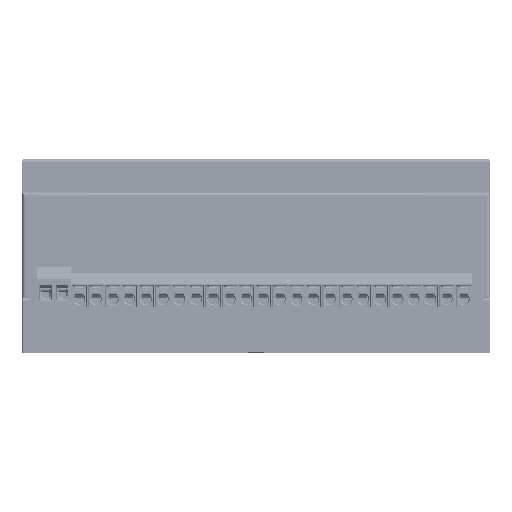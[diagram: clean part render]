
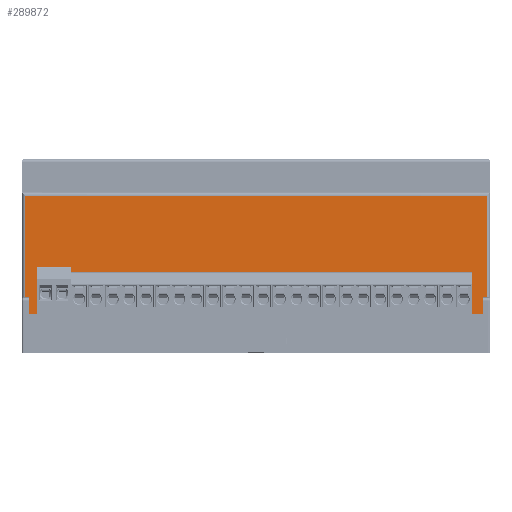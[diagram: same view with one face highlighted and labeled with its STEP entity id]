
A CAD part, top view. The second image highlights one B-rep face of the part: STEP entity #289872.
In plain terms, the highlighted planar face has unit normal (0, 0, 1).
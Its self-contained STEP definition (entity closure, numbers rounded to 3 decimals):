
#1857 = EDGE_CURVE ( 'NONE', #332989, #46589, #12722, .T. ) ;
#12722 = LINE ( 'NONE', #183759, #343056 ) ;
#18560 = VECTOR ( 'NONE', #66534, 1000. ) ;
#20705 = LINE ( 'NONE', #262756, #200771 ) ;
#21492 = ORIENTED_EDGE ( 'NONE', *, *, #79957, .F. ) ;
#22964 = VERTEX_POINT ( 'NONE', #174388 ) ;
#24503 = DIRECTION ( 'NONE',  ( -1., 0., 0. ) ) ;
#28407 = EDGE_CURVE ( 'NONE', #291309, #54875, #406908, .T. ) ;
#31301 = CARTESIAN_POINT ( 'NONE',  ( 1., 31.5, 0. ) ) ;
#33002 = LINE ( 'NONE', #31301, #192941 ) ;
#33703 = EDGE_CURVE ( 'NONE', #133363, #345905, #133824, .T. ) ;
#36576 = EDGE_CURVE ( 'NONE', #84557, #398279, #20705, .T. ) ;
#36707 = LINE ( 'NONE', #320237, #281832 ) ;
#45494 = EDGE_CURVE ( 'NONE', #307761, #291309, #36707, .T. ) ;
#46589 = VERTEX_POINT ( 'NONE', #217232 ) ;
#48777 = VECTOR ( 'NONE', #228074, 1000. ) ;
#53163 = VECTOR ( 'NONE', #24503, 1000. ) ;
#53462 = EDGE_CURVE ( 'NONE', #332989, #345905, #252406, .T. ) ;
#54875 = VERTEX_POINT ( 'NONE', #61861 ) ;
#55540 = ORIENTED_EDGE ( 'NONE', *, *, #45494, .T. ) ;
#55916 = CARTESIAN_POINT ( 'NONE',  ( 137., -5., 0. ) ) ;
#56778 = VECTOR ( 'NONE', #347625, 1000. ) ;
#61861 = CARTESIAN_POINT ( 'NONE',  ( 139., 30.5, 0. ) ) ;
#64978 = DIRECTION ( 'NONE',  ( 0., 1., 0. ) ) ;
#66534 = DIRECTION ( 'NONE',  ( -1., 0., 0. ) ) ;
#77768 = CARTESIAN_POINT ( 'NONE',  ( 138.5, -6.5, 0. ) ) ;
#79957 = EDGE_CURVE ( 'NONE', #286427, #133363, #99165, .T. ) ;
#84557 = VERTEX_POINT ( 'NONE', #55916 ) ;
#87494 = ORIENTED_EDGE ( 'NONE', *, *, #1857, .F. ) ;
#92929 = CARTESIAN_POINT ( 'NONE',  ( 0., 31.5, 0. ) ) ;
#93678 = ORIENTED_EDGE ( 'NONE', *, *, #36576, .T. ) ;
#96129 = ORIENTED_EDGE ( 'NONE', *, *, #33703, .F. ) ;
#99165 = LINE ( 'NONE', #207044, #249113 ) ;
#102500 = FACE_OUTER_BOUND ( 'NONE', #272330, .T. ) ;
#103718 = LINE ( 'NONE', #320996, #18560 ) ;
#113457 = CARTESIAN_POINT ( 'NONE',  ( 1.5, -6.5, 0. ) ) ;
#120961 = DIRECTION ( 'NONE',  ( 0., -1., 0. ) ) ;
#126724 = DIRECTION ( 'NONE',  ( 1., 0., 0. ) ) ;
#133363 = VERTEX_POINT ( 'NONE', #380541 ) ;
#133824 = LINE ( 'NONE', #290975, #48777 ) ;
#144473 = ORIENTED_EDGE ( 'NONE', *, *, #28407, .T. ) ;
#146151 = AXIS2_PLACEMENT_3D ( 'NONE', #92929, #348708, #157121 ) ;
#153033 = ORIENTED_EDGE ( 'NONE', *, *, #53462, .T. ) ;
#156010 = CARTESIAN_POINT ( 'NONE',  ( 138.5, -5., 0. ) ) ;
#157121 = DIRECTION ( 'NONE',  ( -1., 0., 0. ) ) ;
#158512 = DIRECTION ( 'NONE',  ( 0., -1., 0. ) ) ;
#160185 = CARTESIAN_POINT ( 'NONE',  ( 1.5, -6.5, 0. ) ) ;
#161409 = CARTESIAN_POINT ( 'NONE',  ( 139., 31.5, 0. ) ) ;
#166174 = ORIENTED_EDGE ( 'NONE', *, *, #297009, .T. ) ;
#172040 = ORIENTED_EDGE ( 'NONE', *, *, #377992, .F. ) ;
#172382 = ORIENTED_EDGE ( 'NONE', *, *, #254539, .T. ) ;
#174388 = CARTESIAN_POINT ( 'NONE',  ( 1., -9., 0. ) ) ;
#183759 = CARTESIAN_POINT ( 'NONE',  ( 1.5, -5., 0. ) ) ;
#188229 = CARTESIAN_POINT ( 'NONE',  ( 139., -9., 0. ) ) ;
#192941 = VECTOR ( 'NONE', #158512, 1000. ) ;
#199534 = EDGE_CURVE ( 'NONE', #357041, #22964, #33002, .T. ) ;
#200771 = VECTOR ( 'NONE', #265485, 1000. ) ;
#204917 = CARTESIAN_POINT ( 'NONE',  ( 1., 30.5, 0. ) ) ;
#206753 = LINE ( 'NONE', #156010, #56778 ) ;
#207044 = CARTESIAN_POINT ( 'NONE',  ( 1.5, -5., 0. ) ) ;
#217232 = CARTESIAN_POINT ( 'NONE',  ( 1.5, -9., 0. ) ) ;
#220019 = PLANE ( 'NONE',  #146151 ) ;
#228074 = DIRECTION ( 'NONE',  ( -1., 0., 0. ) ) ;
#230268 = CARTESIAN_POINT ( 'NONE',  ( 138.5, -9., 0. ) ) ;
#243691 = CARTESIAN_POINT ( 'NONE',  ( 3., -5., 0. ) ) ;
#249113 = VECTOR ( 'NONE', #303659, 1000. ) ;
#252406 = LINE ( 'NONE', #160185, #337650 ) ;
#254539 = EDGE_CURVE ( 'NONE', #54875, #357041, #308399, .T. ) ;
#262756 = CARTESIAN_POINT ( 'NONE',  ( 137., -5., 0. ) ) ;
#265485 = DIRECTION ( 'NONE',  ( 0.707, -0.707, 0. ) ) ;
#270968 = ORIENTED_EDGE ( 'NONE', *, *, #199534, .T. ) ;
#272330 = EDGE_LOOP ( 'NONE', ( #270968, #166174, #87494, #153033, #96129, #21492, #172040, #93678, #293577, #55540, #144473, #172382 ) ) ;
#281832 = VECTOR ( 'NONE', #352403, 1000. ) ;
#283907 = EDGE_CURVE ( 'NONE', #398279, #307761, #206753, .T. ) ;
#286427 = VERTEX_POINT ( 'NONE', #290896 ) ;
#289872 = ADVANCED_FACE ( 'NONE', ( #102500 ), #220019, .F. ) ;
#290896 = CARTESIAN_POINT ( 'NONE',  ( 95., -5., 0. ) ) ;
#290975 = CARTESIAN_POINT ( 'NONE',  ( 1.5, -5., 0. ) ) ;
#291309 = VERTEX_POINT ( 'NONE', #188229 ) ;
#293577 = ORIENTED_EDGE ( 'NONE', *, *, #283907, .T. ) ;
#297009 = EDGE_CURVE ( 'NONE', #22964, #46589, #325951, .T. ) ;
#303659 = DIRECTION ( 'NONE',  ( -1., 0., 0. ) ) ;
#307761 = VERTEX_POINT ( 'NONE', #230268 ) ;
#308399 = LINE ( 'NONE', #314000, #53163 ) ;
#314000 = CARTESIAN_POINT ( 'NONE',  ( 0., 30.5, 0. ) ) ;
#320237 = CARTESIAN_POINT ( 'NONE',  ( 140., -9., 0. ) ) ;
#320996 = CARTESIAN_POINT ( 'NONE',  ( 1.5, -5., 0. ) ) ;
#325951 = LINE ( 'NONE', #413361, #400983 ) ;
#331903 = VECTOR ( 'NONE', #64978, 1000. ) ;
#332989 = VERTEX_POINT ( 'NONE', #113457 ) ;
#337650 = VECTOR ( 'NONE', #383932, 1000. ) ;
#343056 = VECTOR ( 'NONE', #120961, 1000. ) ;
#345905 = VERTEX_POINT ( 'NONE', #243691 ) ;
#347625 = DIRECTION ( 'NONE',  ( 0., -1., 0. ) ) ;
#348708 = DIRECTION ( 'NONE',  ( 0., 0., -1. ) ) ;
#352403 = DIRECTION ( 'NONE',  ( 1., 0., 0. ) ) ;
#357041 = VERTEX_POINT ( 'NONE', #204917 ) ;
#377992 = EDGE_CURVE ( 'NONE', #84557, #286427, #103718, .T. ) ;
#380541 = CARTESIAN_POINT ( 'NONE',  ( 45., -5., 0. ) ) ;
#383932 = DIRECTION ( 'NONE',  ( 0.707, 0.707, 0. ) ) ;
#398279 = VERTEX_POINT ( 'NONE', #77768 ) ;
#400983 = VECTOR ( 'NONE', #126724, 1000. ) ;
#406908 = LINE ( 'NONE', #161409, #331903 ) ;
#413361 = CARTESIAN_POINT ( 'NONE',  ( 1.5, -9., 0. ) ) ;
